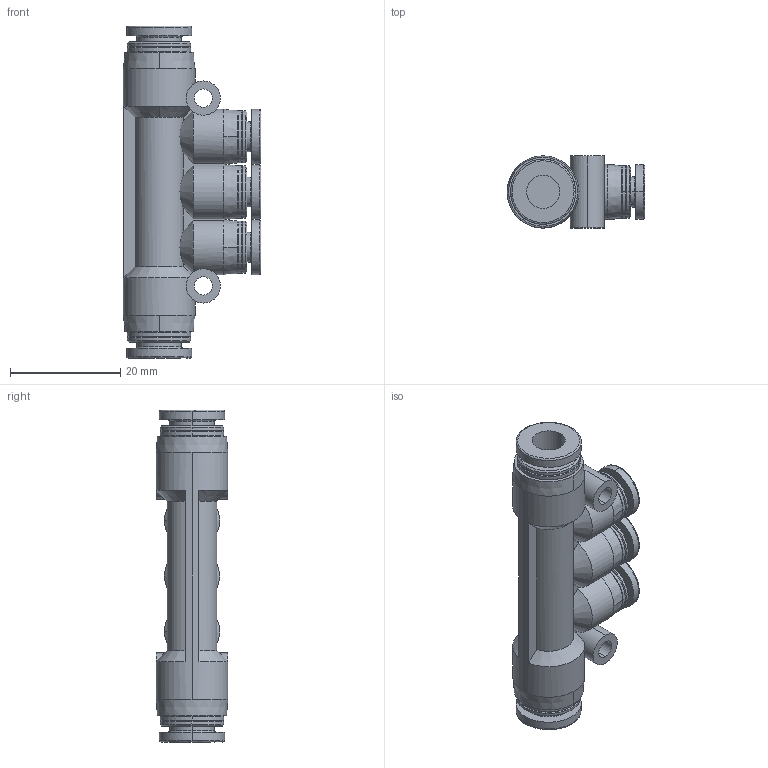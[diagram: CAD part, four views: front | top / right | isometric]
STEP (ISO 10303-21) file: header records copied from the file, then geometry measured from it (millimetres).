
FILE_DESCRIPTION (( 'STEP AP214' ), '1' );
FILE_NAME ('APKG6-4.STEP', '2019-12-06T01:24:58', ( '微软用户' ), ( '微软中国' ), 'SwSTEP 2.0', 'SolidWorks 2016', '' );
FILE_SCHEMA (( 'AUTOMOTIVE_DESIGN' ));
Length unit declared in the file: millimetre
Products named in the file (1): APKG6-4
Bounding box: 24.9 x 13 x 60.1 mm (x, y, z)
Volume: 7622.2 mm3; surface area: 6147.8 mm2
Topology: 1 solids, 1 shells, 207 faces, 493 edges, 308 vertices
Faces by surface type: cone 77, cylinder 67, plane 43, bspline 20
Entity records: 7334 total; most frequent: CARTESIAN_POINT 2517, DIRECTION 1053, ORIENTED_EDGE 986, EDGE_CURVE 493, AXIS2_PLACEMENT_3D 449, VERTEX_POINT 308, CIRCLE 261, EDGE_LOOP 231
